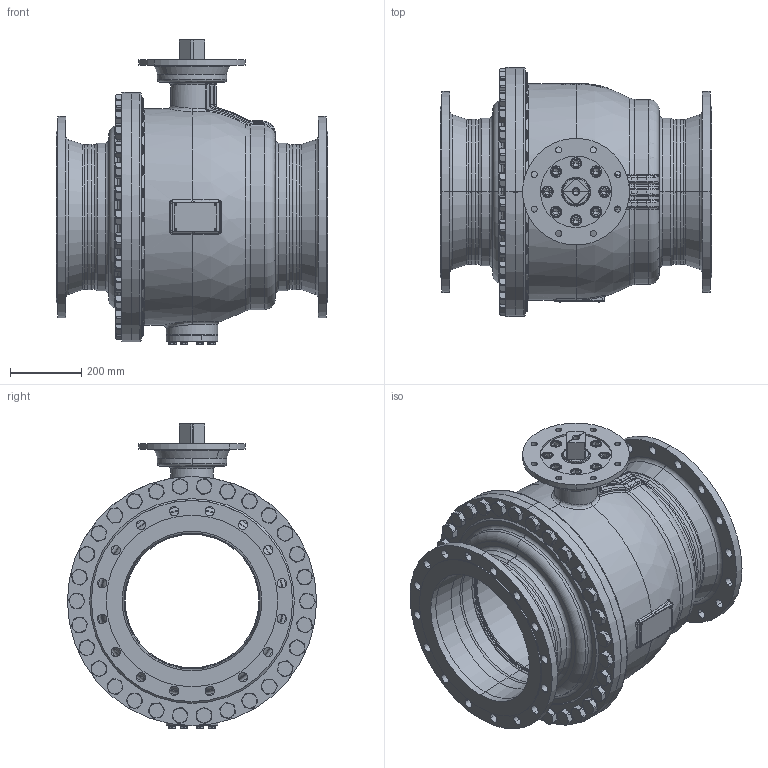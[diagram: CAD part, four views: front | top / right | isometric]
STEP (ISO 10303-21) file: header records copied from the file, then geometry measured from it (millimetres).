
FILE_DESCRIPTION((''),'2;1');
FILE_NAME('KHI-F_400_PN010-F25-4_SW0001','2026-02-05T16:11:48',('fischerkl'),('KLINGER'),'CREO PARAMETRIC BY PTC INC, 2023014','CREO PARAMETRIC BY PTC INC, 2023014','');
FILE_SCHEMA(('CONFIG_CONTROL_DESIGN'));
Products named in the file (1): KHI-F_400_PN010-F25-4_SW0001
Bounding box: 762 x 700 x 858.3 mm (x, y, z)
Volume: 50752987.1 mm3; surface area: 6689119.5 mm2
Topology: 1 solids, 4 shells, 3548 faces, 8934 edges, 5577 vertices
Faces by surface type: plane 1754, cylinder 849, cone 508, torus 307, bspline 99, sphere 31
Entity records: 151905 total; most frequent: CARTESIAN_POINT 67490, ORIENTED_EDGE 17816, DIRECTION 17489, EDGE_CURVE 8908, AXIS2_PLACEMENT_3D 6715, VERTEX_POINT 5577, VECTOR 4059, LINE 4059
